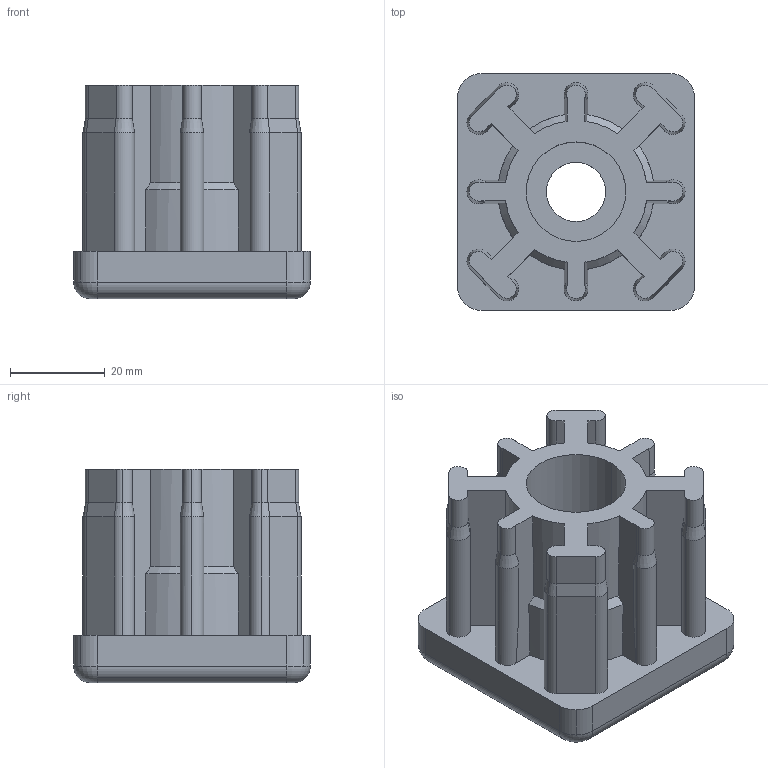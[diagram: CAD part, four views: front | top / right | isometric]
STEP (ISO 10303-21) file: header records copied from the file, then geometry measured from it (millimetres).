
FILE_DESCRIPTION (( 'STEP AP214' ), '1' );
FILE_NAME ('42006850314.STEP', '2020-02-26T11:13:53', ( '' ), ( '' ), 'SwSTEP 2.0', 'SolidWorks 2018', '' );
FILE_SCHEMA (( 'AUTOMOTIVE_DESIGN' ));
Length unit declared in the file: millimetre
Products named in the file (4): 42006850314.stp; 42006850314; Component2.stp; BC_M14.stp
Assembly tree (3 placements, depth 3):
  42006850314
    42006850314.stp
      Component2.stp
      BC_M14.stp
Bounding box: 50 x 50 x 45 mm (x, y, z)
Volume: 59582.3 mm3; surface area: 20667.9 mm2
Topology: 2 solids, 2 shells, 221 faces, 552 edges, 338 vertices
Faces by surface type: cylinder 98, plane 71, cone 42, torus 10
Entity records: 6826 total; most frequent: CARTESIAN_POINT 1302, DIRECTION 1228, ORIENTED_EDGE 1104, EDGE_CURVE 552, AXIS2_PLACEMENT_3D 480, VERTEX_POINT 338, VECTOR 268, LINE 268
